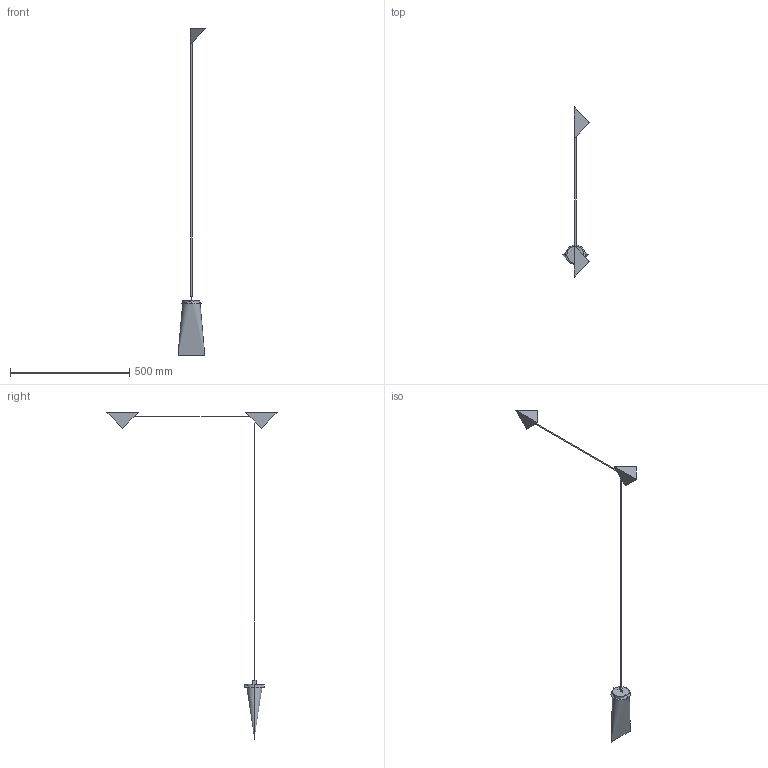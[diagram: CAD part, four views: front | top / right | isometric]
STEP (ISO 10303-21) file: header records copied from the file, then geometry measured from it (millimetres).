
FILE_DESCRIPTION(/* description */ (''),/* implementation_level */ '2;1');
FILE_NAME(/* name */ 'Aggregato_Sferico_Decentrato_d25_3D',/* time_stamp */ '2021-10-25T18:35:30+02:00',/* author */ (''),/* organization */ (''),/* preprocessor_version */ 'ST-DEVELOPER v15',/* originating_system */ '',/* authorisation */ '');
FILE_SCHEMA (('AUTOMOTIVE_DESIGN'));
Length unit declared in the file: millimetre
Products named in the file (1): Document
Bounding box: 117.51 x 714.9 x 1372.8 mm (x, y, z)
Volume: 380176 mm3; surface area: 308758.8 mm2
Topology: 2 solids, 9 shells, 37 faces, 82 edges, 49 vertices
Faces by surface type: bspline 24, plane 13
Entity records: 1339 total; most frequent: CARTESIAN_POINT 844, ORIENTED_EDGE 131, EDGE_CURVE 75, VERTEX_POINT 46, ADVANCED_FACE 37, FACE_OUTER_BOUND 37, EDGE_LOOP 37, DIRECTION 24
